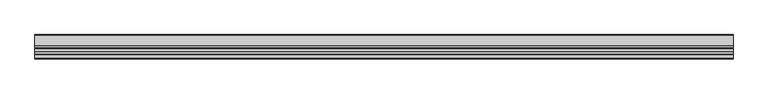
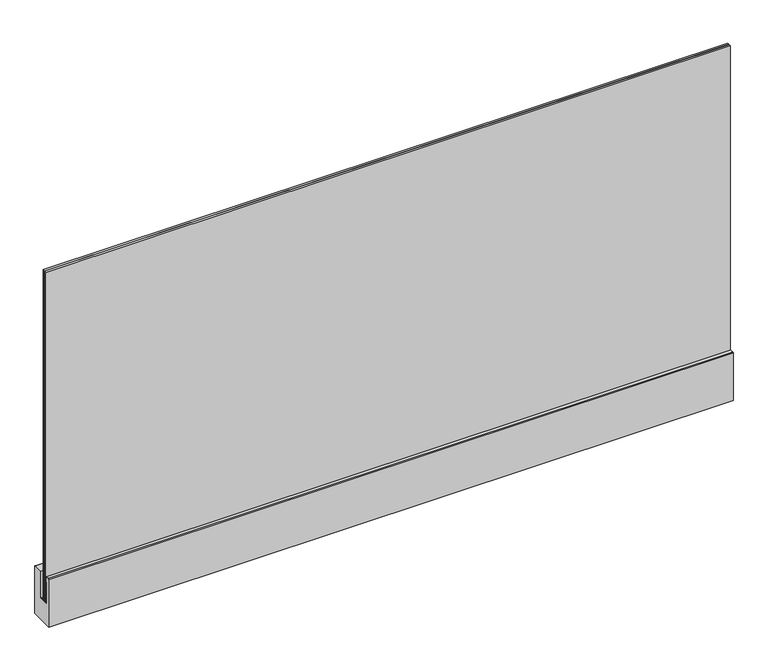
"""IFC4 building model written with IfcOpenShell, lengths in millimetres: railing geometry, Glass Railing (10+10) - Faraone - Ninfa 186 - Fascia mounted - Without Handrail."""

from ifc_helpers import new_model, si_unit, point, frame, frame_2d, origin, place, context, project, spatial, polyline, circle_curve, trimmed, segment, composite_curve, outline, extrude, source, transform, mapped, element, save


def railing_aee8ae82(model_context):
    return source(origin(), model_context, "Body", "SweptSolid", [
        extrude(outline(polyline([(-1231.1302608, -92.36), (-1231.1302608, 1089.54), (-1223.2302608, 1089.54), (-1223.2302608, -91.56), (-1222.2302608, -91.56), (-1222.2302608, 1089.54), (-1214.3302608, 1089.54), (-1214.3302608, -92.36), (-1231.1302608, -92.36)])), frame((4362.6376845, 0.0, 0.0), z_axis=(1.0, 0.0, 0.0), x_axis=(0.0, 1.0, 0.0)), (0.0, 0.0, 1.0), 2320.0),
        extrude(outline(composite_curve([segment(polyline([(-1243.6228304, -0.0006325), (-1233.7183898, -0.0006325), (-1233.7183898, -95.3393625), (-1201.9421318, -95.3393625), (-1201.9421318, -0.0006325), (-1169.4613959, -0.0006325)]), True, "CONTINUOUS"), segment(trimmed(circle_curve(frame_2d((-1169.4613959, -3.0621312)), 3.0614987), [point((-1169.4613959, -0.0006325))], [point((-1166.3998971, -3.0621312))], False, "CARTESIAN"), True, "CONTINUOUS"), segment(polyline([(-1166.3998971, -3.0621312), (-1166.3998971, -173.21), (-1246.7434306, -173.21), (-1246.7434306, -3.1212327)]), True, "CONTINUOUS"), segment(trimmed(circle_curve(frame_2d((-1243.6228304, -3.1212327)), 3.1206002), [point((-1246.7434306, -3.1212327))], [point((-1243.6228304, -0.0006325))], False, "CARTESIAN"), True, "CONTINUOUS")], self_intersect=False)), frame((4362.6376845, 0.0, 0.0), z_axis=(1.0, 0.0, 0.0), x_axis=(0.0, 1.0, 0.0)), (0.0, 0.0, 1.0), 2320.0),
        extrude(outline(polyline([(-1233.7221756, -95.34), (-1233.7221756, -20.1108016), (-1230.9982276, -20.1108016), (-1230.9982276, -92.3609041), (-1210.238346, -92.3609041), (-1210.238346, -95.34), (-1233.7221756, -95.34)])), frame((4362.6376845, 0.0, 0.0), z_axis=(1.0, 0.0, 0.0), x_axis=(0.0, 1.0, 0.0)), (0.0, 0.0, 1.0), 2320.0),
    ])


if __name__ == "__main__":
    model = new_model("IFC4")
    model_context = context("Model", 3, world=origin())
    ifc_project = project(units=[si_unit("LENGTHUNIT", "METRE", prefix="MILLI")], contexts=[model_context])
    site = spatial("IfcSite", under=ifc_project)
    building = spatial("IfcBuilding", under=site)
    placement = place(None, origin())
    railing_shape = railing_aee8ae82(model_context)
    element("IfcRailing", 1, ObjectType="Glass Railing (10+10) - Faraone - Ninfa 186 - Fascia mounted - Without Handrail", at=placement, inside=building, context=model_context, shape_type="MappedRepresentation", body=[
        mapped(railing_shape, transform((0.0, 0.0, 0.0), x_axis=(1.0, 0.0, 0.0), y_axis=(0.0, 1.0, 0.0), z_axis=(0.0, 0.0, 1.0))),
    ])
    save(model, "model.ifc")
